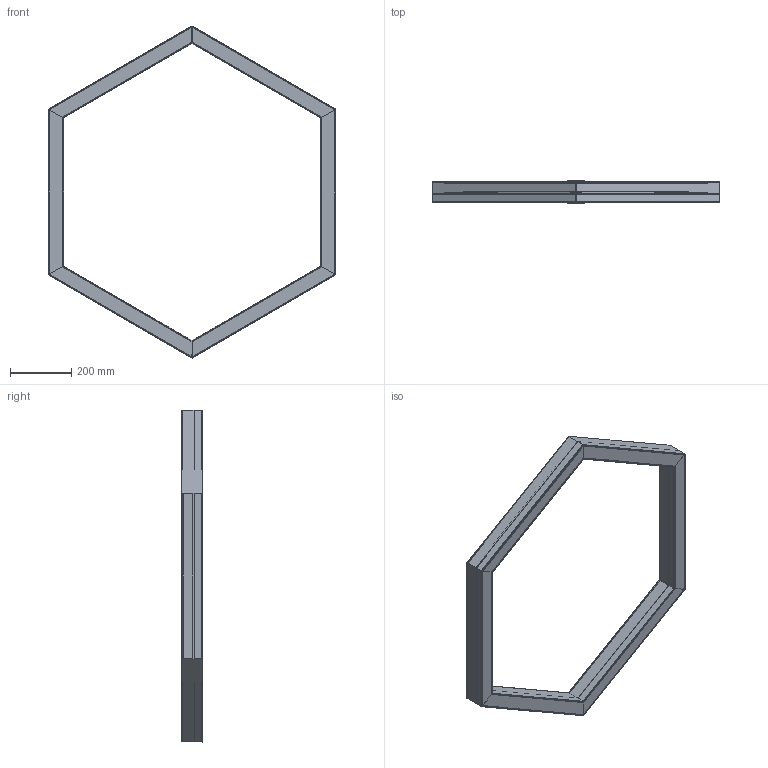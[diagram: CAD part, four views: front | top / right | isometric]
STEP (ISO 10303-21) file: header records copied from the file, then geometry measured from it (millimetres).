
FILE_DESCRIPTION(('STEP AP203'), '1');
FILE_NAME('Ìèêêî Ðèáèê 60Âò', '', ('UNSPECIFIED'), ('UNSPECIFIED'), 'ASCON STEP Converter 1.6', 'ASCON Math Kernel', '');
FILE_SCHEMA(('CONFIG_CONTROL_DESIGN'));
Length unit declared in the file: millimetre
Assembly tree (6 placements, depth 2):
  (unnamed)
    (unnamed)
    (unnamed)  x5
Bounding box: 938.77 x 70 x 1084 mm (x, y, z)
Volume: 1335706.1 mm3; surface area: 2050275 mm2
Topology: 13 solids, 13 shells, 1202 faces, 3523 edges, 2349 vertices
Faces by surface type: cylinder 692, plane 508, torus 2
Full cylindrical faces by diameter (mm): 8 x1, 10 x2, 14 x2
Entity records: 13791 total; most frequent: CARTESIAN_POINT 3864, ORIENTED_EDGE 2376, DIRECTION 1574, EDGE_CURVE 1188, VERTEX_POINT 796, LINE 712, VECTOR 712, AXIS2_PLACEMENT_3D 431
